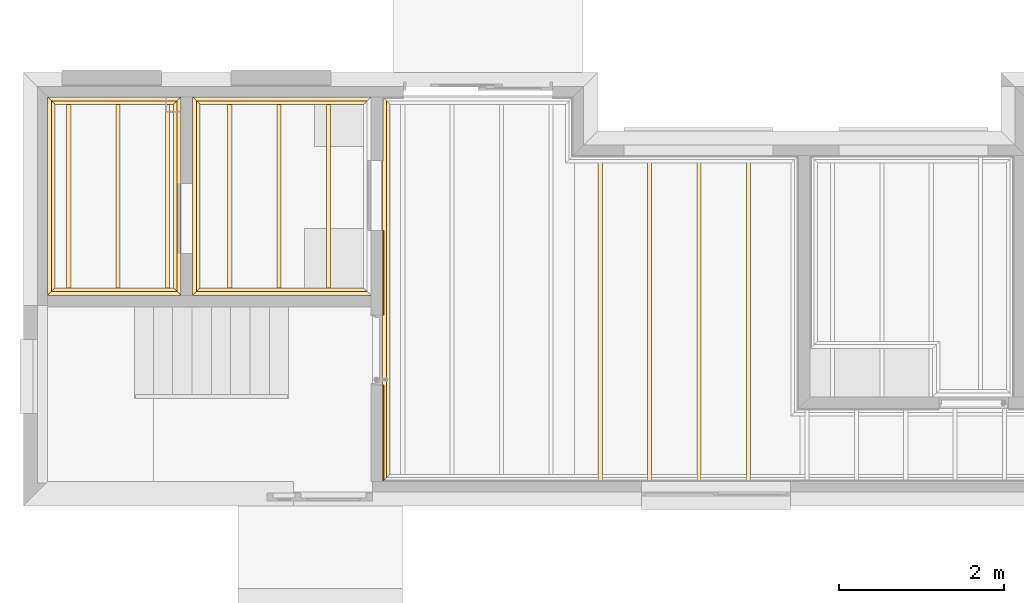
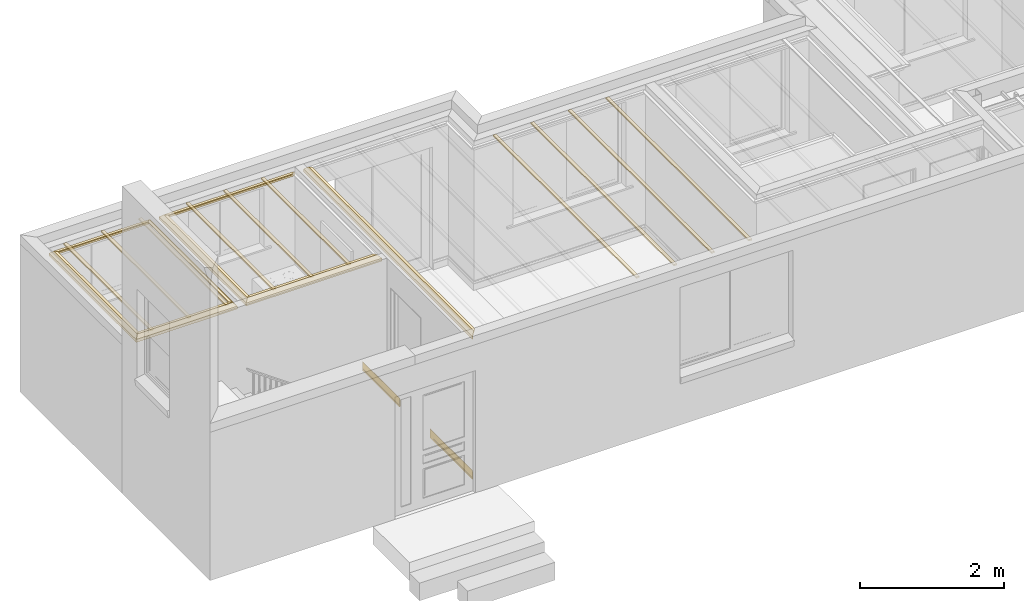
# One storey, part 10 of 15: 13 coverings.
"""IFC2X3 building model written with IfcOpenShell, lengths in millimetres."""

from ifc_helpers import new_model, entity, si_unit, converted_unit, money_unit, direction, frame, origin_with_axes, place, context, subcontext, project, spatial, faceted_brep, source, transform, mapped, material, type_object, element, save


model = new_model("IFC2X3")

# Units and contexts
model_context = context("Model", 3, precision=1e-05, world=origin_with_axes(), true_north=direction((0.0, 1.0)))
body_context = subcontext(model_context, "Body", "Model", "MODEL_VIEW")
ifc_project = project(units=[si_unit("LENGTHUNIT", "METRE", prefix="MILLI"), si_unit("AREAUNIT", "SQUARE_METRE"), si_unit("VOLUMEUNIT", "CUBIC_METRE"), converted_unit("PLANEANGLEUNIT", "DEGREE", entity("IfcPlaneAngleMeasure", 0.0174532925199), si_unit("PLANEANGLEUNIT", "RADIAN"), dimensions=[0, 0, 0, 0, 0, 0, 0]), si_unit("SOLIDANGLEUNIT", "STERADIAN"), money_unit("AUD"), si_unit("TIMEUNIT", "SECOND"), si_unit("MASSUNIT", "GRAM"), si_unit("THERMODYNAMICTEMPERATUREUNIT", "DEGREE_CELSIUS"), si_unit("LUMINOUSINTENSITYUNIT", "LUMEN")], contexts=[model_context])

# Site, building, storey
site_placement = place(None, origin_with_axes())
site = spatial("IfcSite", under=ifc_project, at=site_placement, Name="Lot 1. East Hills", CompositionType="ELEMENT")
building_placement = place(site_placement, origin_with_axes())
building = spatial("IfcBuilding", under=site, at=building_placement, Name="Proposed Units 7 & 8", CompositionType="ELEMENT")
storey_placement = place(building_placement, frame((0.0, 0.0, 3202.0), z_axis=(0.0, 0.0, 1.0), x_axis=(1.0, 0.0, 0.0)))
storey = spatial("IfcBuildingStorey", under=building, at=storey_placement, Name="Ground", CompositionType="ELEMENT", Elevation=3202.0)

# Coverings
ifc_material = material(Name="50 %")
covering_type_1 = type_object("IfcCoveringType", Name="CEILING BATTEN", PredefinedType="NOTDEFINED")
shared_shape_1 = source(origin_with_axes(), body_context, "Body", "Brep", [
    faceted_brep([(0.0, 0.0, 0.0), (0.0, 0.0, 25.0), (-2407.94844819, 0.0, 25.0), (-2407.94844819, 0.0, 0.0), (0.0, 50.0, 0.0), (0.0, 50.0, 25.0), (-2407.94844819, 50.0, 25.0), (-2407.94844819, 50.0, 0.0)], [[[0, 1, 2, 3]], [[4, 5, 1, 0]], [[1, 5, 6, 2]], [[3, 2, 6, 7]], [[0, 3, 7, 4]], [[7, 6, 5, 4]]]),
    faceted_brep([(0.0, 600.0, 0.0), (0.0, 600.0, 25.0), (-2407.94844819, 600.0, 25.0), (-2407.94844819, 600.0, 0.0), (0.0, 650.0, 0.0), (0.0, 650.0, 25.0), (-2407.94844819, 650.0, 25.0), (-2407.94844819, 650.0, 0.0)], [[[0, 1, 2, 3]], [[4, 5, 1, 0]], [[1, 5, 6, 2]], [[3, 2, 6, 7]], [[0, 3, 7, 4]], [[7, 6, 5, 4]]]),
    faceted_brep([(0.0, 1200.0, 0.0), (0.0, 1200.0, 25.0), (-2407.94844819, 1200.0, 25.0), (-2407.94844819, 1200.0, 0.0), (0.0, 1250.0, 0.0), (0.0, 1250.0, 25.0), (-2407.94844819, 1250.0, 25.0), (-2407.94844819, 1250.0, 0.0)], [[[0, 1, 2, 3]], [[4, 5, 1, 0]], [[1, 5, 6, 2]], [[3, 2, 6, 7]], [[0, 3, 7, 4]], [[7, 6, 5, 4]]]),
])
covering_1_placement = place(storey_placement, frame((1776.2166125, 4968.00000119, 2482.0), z_axis=(0.0, 0.0, 1.0), x_axis=(0.0, 1.0, 0.0)))
element("IfcCovering", 1, at=covering_1_placement, inside=storey, type_object=covering_type_1, material=ifc_material, Name="CEL-WALL-G06 - CEILING BATTEN - object -", PredefinedType="CEILING", context=body_context, shape_type="MappedRepresentation", body=[
    mapped(shared_shape_1, transform((0.0, 0.0, 0.0))),
])
shared_shape_2 = source(origin_with_axes(), body_context, "Body", "Brep", [
    faceted_brep([(0.0, 0.0, 0.0), (0.0, 0.0, 25.0), (-2409.94008868, 0.0, 25.0), (-2409.94008868, 0.0, 0.0), (0.0, 50.0, 0.0), (0.0, 50.0, 25.0), (-2409.94008868, 50.0, 25.0), (-2409.94008868, 50.0, 0.0)], [[[0, 1, 2, 3]], [[4, 5, 1, 0]], [[1, 5, 6, 2]], [[3, 2, 6, 7]], [[0, 3, 7, 4]], [[7, 6, 5, 4]]]),
    faceted_brep([(0.0, 600.0, 0.0), (0.0, 600.0, 25.0), (-2409.94008868, 600.0, 25.0), (-2409.94008868, 600.0, 0.0), (0.0, 650.0, 0.0), (0.0, 650.0, 25.0), (-2409.94008868, 650.0, 25.0), (-2409.94008868, 650.0, 0.0)], [[[0, 1, 2, 3]], [[4, 5, 1, 0]], [[1, 5, 6, 2]], [[3, 2, 6, 7]], [[0, 3, 7, 4]], [[7, 6, 5, 4]]]),
    faceted_brep([(0.0, 1200.0, 0.0), (0.0, 1200.0, 25.0), (-2409.94008868, 1200.0, 25.0), (-2409.94008868, 1200.0, 0.0), (0.0, 1250.0, 0.0), (0.0, 1250.0, 25.0), (-2409.94008868, 1250.0, 25.0), (-2409.94008868, 1250.0, 0.0)], [[[0, 1, 2, 3]], [[4, 5, 1, 0]], [[1, 5, 6, 2]], [[3, 2, 6, 7]], [[0, 3, 7, 4]], [[7, 6, 5, 4]]]),
])
covering_2_placement = place(storey_placement, frame((3732.51796531, 4968.00000119, 2482.0), z_axis=(0.0, 0.0, 1.0), x_axis=(0.0, 1.0, 0.0)))
element("IfcCovering", 2, at=covering_2_placement, inside=storey, type_object=covering_type_1, material=ifc_material, Name="CEL-WALL-G05 - CEILING BATTEN - object -", PredefinedType="CEILING", context=body_context, shape_type="MappedRepresentation", body=[
    mapped(shared_shape_2, transform((0.0, 0.0, 0.0))),
])
shared_shape_3 = source(origin_with_axes(), body_context, "Body", "Brep", [
    faceted_brep([(0.0, 0.0, 0.0), (0.0, 0.0, 25.0), (-3963.98807811, 0.0, 25.0), (-3963.98807811, 0.0, 0.0), (0.0, 50.0, 0.0), (0.0, 50.0, 25.0), (-3963.98807811, 50.0, 25.0), (-3963.98807811, 50.0, 0.0)], [[[0, 1, 2, 3]], [[4, 5, 1, 0]], [[1, 5, 6, 2]], [[3, 2, 6, 7]], [[0, 3, 7, 4]], [[7, 6, 5, 4]]]),
    faceted_brep([(0.0, 600.0, 0.0), (0.0, 600.0, 25.0), (-3963.98807811, 600.0, 25.0), (-3963.98807811, 600.0, 0.0), (0.0, 650.0, 0.0), (0.0, 650.0, 25.0), (-3963.98807811, 650.0, 25.0), (-3963.98807811, 650.0, 0.0)], [[[0, 1, 2, 3]], [[4, 5, 1, 0]], [[1, 5, 6, 2]], [[3, 2, 6, 7]], [[0, 3, 7, 4]], [[7, 6, 5, 4]]]),
    faceted_brep([(0.0, 1200.0, 0.0), (0.0, 1200.0, 25.0), (-3963.98807811, 1200.0, 25.0), (-3963.98807811, 1200.0, 0.0), (0.0, 1250.0, 0.0), (0.0, 1250.0, 25.0), (-3963.98807811, 1250.0, 25.0), (-3963.98807811, 1250.0, 0.0)], [[[0, 1, 2, 3]], [[4, 5, 1, 0]], [[1, 5, 6, 2]], [[3, 2, 6, 7]], [[0, 3, 7, 4]], [[7, 6, 5, 4]]]),
    faceted_brep([(0.0, 1800.0, 0.0), (0.0, 1800.0, 25.0), (-3963.98807811, 1800.0, 25.0), (-3963.98807811, 1800.0, 0.0), (0.0, 1850.0, 0.0), (0.0, 1850.0, 25.0), (-3963.98807811, 1850.0, 25.0), (-3963.98807811, 1850.0, 0.0)], [[[0, 1, 2, 3]], [[4, 5, 1, 0]], [[1, 5, 6, 2]], [[3, 2, 6, 7]], [[0, 3, 7, 4]], [[7, 6, 5, 4]]]),
])
covering_3_placement = place(storey_placement, frame((8834.99999955, 4258.00000119, 2482.0), z_axis=(0.0, 0.0, 1.0), x_axis=(0.0, 1.0, 0.0)))
element("IfcCovering", 3, at=covering_3_placement, inside=storey, type_object=covering_type_1, material=ifc_material, Name="CEL-WALL-G08 - CEILING BATTEN - object -", PredefinedType="CEILING", context=body_context, shape_type="MappedRepresentation", body=[
    mapped(shared_shape_3, transform((0.0, 0.0, 0.0))),
])
covering_type_2 = type_object("IfcCoveringType", Name="Molding Straight 12", PredefinedType="NOTDEFINED")
shared_shape_4 = source(origin_with_axes(), body_context, "Body", "Brep", [
    faceted_brep([(-1620.00000119, 0.0, -97.7142857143), (0.0, 0.0, -97.7142857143), (-20.5714285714, -20.5714285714, -97.7142857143), (-1599.42857262, -20.5714285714, -97.7142857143), (-1620.00000119, 0.0, -48.8571428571), (0.0, 0.0, -48.8571428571), (-48.8571428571, -48.8571428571, 0.0), (-90.0, -90.0, 0.0), (-90.0, -90.0, -12.8571428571), (-74.5714285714, -74.5714285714, -12.8571428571), (-74.5714285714, -74.5714285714, -25.7142857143), (-60.5952001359, -60.5952001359, -27.5542910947), (-47.5714285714, -47.5714285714, -32.9489139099), (-36.3876623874, -36.3876623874, -41.5305195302), (-27.8060567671, -27.8060567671, -52.7142857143), (-22.4114339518, -22.4114339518, -65.7380572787), (-20.5714285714, -20.5714285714, -79.7142857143), (-1599.42857262, -20.5714285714, -79.7142857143), (-1597.58856724, -22.4114339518, -65.7380572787), (-1592.19394443, -27.8060567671, -52.7142857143), (-1583.6123388, -36.3876623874, -41.5305195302), (-1572.42857262, -47.5714285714, -32.9489139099), (-1559.40480106, -60.5952001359, -27.5542910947), (-1545.42857262, -74.5714285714, -25.7142857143), (-1545.42857262, -74.5714285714, -12.8571428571), (-1530.00000119, -90.0, -12.8571428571), (-1530.00000119, -90.0, 0.0), (-1571.14285833, -48.8571428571, 0.0)], [[[0, 1, 2, 3]], [[4, 5, 1, 0]], [[1, 5, 6, 7, 8, 9, 10, 11, 12, 13, 14, 15, 16, 2]], [[3, 2, 16, 17]], [[0, 3, 17, 18, 19, 20, 21, 22, 23, 24, 25, 26, 27, 4]], [[27, 6, 5, 4]], [[26, 7, 6, 27]], [[25, 8, 7, 26]], [[24, 9, 8, 25]], [[23, 10, 9, 24]], [[22, 11, 10, 23]], [[21, 12, 11, 22]], [[20, 13, 12, 21]], [[19, 14, 13, 20]], [[18, 15, 14, 19]], [[17, 16, 15, 18]]]),
])
covering_4_placement = place(storey_placement, frame((1915.0, 4968.00000119, 2469.0), z_axis=(0.0, 0.0, 1.0), x_axis=(1.0, 0.0, 0.0)))
element("IfcCovering", 4, at=covering_4_placement, inside=storey, type_object=covering_type_2, material=ifc_material, Name="CEL-MOD-G34 - Molding Straight 12 - object -", PredefinedType="NOTDEFINED", context=body_context, shape_type="MappedRepresentation", body=[
    mapped(shared_shape_4, transform((0.0, 0.0, 0.0))),
])
shared_shape_5 = source(origin_with_axes(), body_context, "Body", "Brep", [
    faceted_brep([(-2409.96592086, 0.0, -97.7142857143), (0.0, 0.0, -97.7142857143), (-20.5714285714, -20.5714285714, -97.7142857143), (-2389.39449228, -20.5714285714, -97.7142857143), (-2409.96592086, 0.0, -48.8571428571), (0.0, 0.0, -48.8571428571), (-48.8571428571, -48.8571428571, 0.0), (-90.0, -90.0, 0.0), (-90.0, -90.0, -12.8571428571), (-74.5714285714, -74.5714285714, -12.8571428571), (-74.5714285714, -74.5714285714, -25.7142857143), (-60.5952001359, -60.5952001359, -27.5542910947), (-47.5714285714, -47.5714285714, -32.9489139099), (-36.3876623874, -36.3876623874, -41.5305195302), (-27.8060567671, -27.8060567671, -52.7142857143), (-22.4114339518, -22.4114339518, -65.7380572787), (-20.5714285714, -20.5714285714, -79.7142857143), (-2389.39449228, -20.5714285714, -79.7142857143), (-2387.5544869, -22.4114339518, -65.7380572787), (-2382.15986409, -27.8060567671, -52.7142857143), (-2373.57825847, -36.3876623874, -41.5305195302), (-2362.39449228, -47.5714285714, -32.9489139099), (-2349.37072072, -60.5952001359, -27.5542910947), (-2335.39449228, -74.5714285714, -25.7142857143), (-2335.39449228, -74.5714285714, -12.8571428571), (-2319.96592086, -90.0, -12.8571428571), (-2319.96592086, -90.0, 0.0), (-2361.108778, -48.8571428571, 0.0)], [[[0, 1, 2, 3]], [[4, 5, 1, 0]], [[1, 5, 6, 7, 8, 9, 10, 11, 12, 13, 14, 15, 16, 2]], [[3, 2, 16, 17]], [[0, 3, 17, 18, 19, 20, 21, 22, 23, 24, 25, 26, 27, 4]], [[27, 6, 5, 4]], [[26, 7, 6, 27]], [[25, 8, 7, 26]], [[24, 9, 8, 25]], [[23, 10, 9, 24]], [[22, 11, 10, 23]], [[21, 12, 11, 22]], [[20, 13, 12, 21]], [[19, 14, 13, 20]], [[18, 15, 14, 19]], [[17, 16, 15, 18]]]),
])
covering_5_placement = place(storey_placement, frame((1915.0, 2558.03408034, 2469.0), z_axis=(0.0, 0.0, 1.0), x_axis=(0.0, -1.0, 0.0)))
element("IfcCovering", 5, at=covering_5_placement, inside=storey, type_object=covering_type_2, material=ifc_material, Name="CEL-MOD-G33 - Molding Straight 12 - object -", PredefinedType="NOTDEFINED", context=body_context, shape_type="MappedRepresentation", body=[
    mapped(shared_shape_5, transform((0.0, 0.0, 0.0))),
])
shared_shape_6 = source(origin_with_axes(), body_context, "Body", "Brep", [
    faceted_brep([(-1620.00000119, 0.0, -97.7142857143), (0.0, 0.0, -97.7142857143), (-20.5714285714, -20.5714285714, -97.7142857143), (-1599.42857262, -20.5714285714, -97.7142857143), (-1620.00000119, 0.0, -48.8571428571), (0.0, 0.0, -48.8571428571), (-48.8571428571, -48.8571428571, 0.0), (-90.0, -90.0, 0.0), (-90.0, -90.0, -12.8571428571), (-74.5714285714, -74.5714285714, -12.8571428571), (-74.5714285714, -74.5714285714, -25.7142857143), (-60.5952001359, -60.5952001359, -27.5542910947), (-47.5714285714, -47.5714285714, -32.9489139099), (-36.3876623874, -36.3876623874, -41.5305195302), (-27.8060567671, -27.8060567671, -52.7142857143), (-22.4114339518, -22.4114339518, -65.7380572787), (-20.5714285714, -20.5714285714, -79.7142857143), (-1599.42857262, -20.5714285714, -79.7142857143), (-1597.58856724, -22.4114339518, -65.7380572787), (-1592.19394443, -27.8060567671, -52.7142857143), (-1583.6123388, -36.3876623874, -41.5305195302), (-1572.42857262, -47.5714285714, -32.9489139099), (-1559.40480106, -60.5952001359, -27.5542910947), (-1545.42857262, -74.5714285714, -25.7142857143), (-1545.42857262, -74.5714285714, -12.8571428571), (-1530.00000119, -90.0, -12.8571428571), (-1530.00000119, -90.0, 0.0), (-1571.14285833, -48.8571428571, 0.0)], [[[0, 1, 2, 3]], [[4, 5, 1, 0]], [[1, 5, 6, 7, 8, 9, 10, 11, 12, 13, 14, 15, 16, 2]], [[3, 2, 16, 17]], [[0, 3, 17, 18, 19, 20, 21, 22, 23, 24, 25, 26, 27, 4]], [[27, 6, 5, 4]], [[26, 7, 6, 27]], [[25, 8, 7, 26]], [[24, 9, 8, 25]], [[23, 10, 9, 24]], [[22, 11, 10, 23]], [[21, 12, 11, 22]], [[20, 13, 12, 21]], [[19, 14, 13, 20]], [[18, 15, 14, 19]], [[17, 16, 15, 18]]]),
])
covering_6_placement = place(storey_placement, frame((294.999998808, 2558.03408034, 2469.0), z_axis=(0.0, 0.0, 1.0), x_axis=(-1.0, 0.0, 0.0)))
element("IfcCovering", 6, at=covering_6_placement, inside=storey, type_object=covering_type_2, material=ifc_material, Name="CEL-MOD-G32 - Molding Straight 12 - object -", PredefinedType="NOTDEFINED", context=body_context, shape_type="MappedRepresentation", body=[
    mapped(shared_shape_6, transform((0.0, 0.0, 0.0))),
])
shared_shape_7 = source(origin_with_axes(), body_context, "Body", "Brep", [
    faceted_brep([(-2170.02032692, 0.0, -97.7142857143), (0.0, 0.0, -97.7142857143), (-20.5714285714, -20.5714285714, -97.7142857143), (-2149.44889835, -20.5714285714, -97.7142857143), (-2170.02032692, 0.0, -48.8571428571), (0.0, 0.0, -48.8571428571), (-48.8571428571, -48.8571428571, 0.0), (-90.0, -90.0, 0.0), (-90.0, -90.0, -12.8571428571), (-74.5714285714, -74.5714285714, -12.8571428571), (-74.5714285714, -74.5714285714, -25.7142857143), (-60.5952001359, -60.5952001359, -27.5542910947), (-47.5714285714, -47.5714285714, -32.9489139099), (-36.3876623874, -36.3876623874, -41.5305195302), (-27.8060567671, -27.8060567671, -52.7142857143), (-22.4114339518, -22.4114339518, -65.7380572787), (-20.5714285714, -20.5714285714, -79.7142857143), (-2149.44889835, -20.5714285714, -79.7142857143), (-2147.60889297, -22.4114339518, -65.7380572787), (-2142.21427015, -27.8060567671, -52.7142857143), (-2133.63266453, -36.3876623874, -41.5305195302), (-2122.44889835, -47.5714285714, -32.9489139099), (-2109.42512678, -60.5952001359, -27.5542910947), (-2095.44889835, -74.5714285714, -25.7142857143), (-2095.44889835, -74.5714285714, -12.8571428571), (-2080.02032692, -90.0, -12.8571428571), (-2080.02032692, -90.0, 0.0), (-2121.16318406, -48.8571428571, 0.0)], [[[0, 1, 2, 3]], [[4, 5, 1, 0]], [[1, 5, 6, 7, 8, 9, 10, 11, 12, 13, 14, 15, 16, 2]], [[3, 2, 16, 17]], [[0, 3, 17, 18, 19, 20, 21, 22, 23, 24, 25, 26, 27, 4]], [[27, 6, 5, 4]], [[26, 7, 6, 27]], [[25, 8, 7, 26]], [[24, 9, 8, 25]], [[23, 10, 9, 24]], [[22, 11, 10, 23]], [[21, 12, 11, 22]], [[20, 13, 12, 21]], [[19, 14, 13, 20]], [[18, 15, 14, 19]], [[17, 16, 15, 18]]]),
])
covering_7_placement = place(storey_placement, frame((2054.9999994, 2558.06361356, 2469.0), z_axis=(0.0, 0.0, 1.0), x_axis=(-1.0, 0.0, 0.0)))
element("IfcCovering", 7, at=covering_7_placement, inside=storey, type_object=covering_type_2, material=ifc_material, Name="CEL-MOD-G30 - Molding Straight 12 - object -", PredefinedType="NOTDEFINED", context=body_context, shape_type="MappedRepresentation", body=[
    mapped(shared_shape_7, transform((0.0, 0.0, 0.0))),
])
shared_shape_8 = source(origin_with_axes(), body_context, "Body", "Brep", [
    faceted_brep([(-2170.00221678, 0.0, -97.7142857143), (0.0, 0.0, -97.7142857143), (-20.5714285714, -20.5714285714, -97.7142857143), (-2149.43078821, -20.5714285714, -97.7142857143), (-2170.00221678, 0.0, -48.8571428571), (0.0, 0.0, -48.8571428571), (-48.8571428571, -48.8571428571, 0.0), (-90.0, -90.0, 0.0), (-90.0, -90.0, -12.8571428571), (-74.5714285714, -74.5714285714, -12.8571428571), (-74.5714285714, -74.5714285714, -25.7142857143), (-60.5952001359, -60.5952001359, -27.5542910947), (-47.5714285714, -47.5714285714, -32.9489139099), (-36.3876623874, -36.3876623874, -41.5305195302), (-27.8060567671, -27.8060567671, -52.7142857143), (-22.4114339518, -22.4114339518, -65.7380572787), (-20.5714285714, -20.5714285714, -79.7142857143), (-2149.43078821, -20.5714285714, -79.7142857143), (-2147.59078283, -22.4114339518, -65.7380572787), (-2142.19616002, -27.8060567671, -52.7142857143), (-2133.6145544, -36.3876623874, -41.5305195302), (-2122.43078821, -47.5714285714, -32.9489139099), (-2109.40701665, -60.5952001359, -27.5542910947), (-2095.43078821, -74.5714285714, -25.7142857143), (-2095.43078821, -74.5714285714, -12.8571428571), (-2080.00221678, -90.0, -12.8571428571), (-2080.00221678, -90.0, 0.0), (-2121.14507393, -48.8571428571, 0.0)], [[[0, 1, 2, 3]], [[4, 5, 1, 0]], [[1, 5, 6, 7, 8, 9, 10, 11, 12, 13, 14, 15, 16, 2]], [[3, 2, 16, 17]], [[0, 3, 17, 18, 19, 20, 21, 22, 23, 24, 25, 26, 27, 4]], [[27, 6, 5, 4]], [[26, 7, 6, 27]], [[25, 8, 7, 26]], [[24, 9, 8, 25]], [[23, 10, 9, 24]], [[22, 11, 10, 23]], [[21, 12, 11, 22]], [[20, 13, 12, 21]], [[19, 14, 13, 20]], [[18, 15, 14, 19]], [[17, 16, 15, 18]]]),
])
covering_8_placement = place(storey_placement, frame((4225.00221619, 4968.00000119, 2469.0), z_axis=(0.0, 0.0, 1.0), x_axis=(1.0, 0.0, 0.0)))
element("IfcCovering", 8, at=covering_8_placement, inside=storey, type_object=covering_type_2, material=ifc_material, Name="CEL-MOD-G29 - Molding Straight 12 - object -", PredefinedType="NOTDEFINED", context=body_context, shape_type="MappedRepresentation", body=[
    mapped(shared_shape_8, transform((0.0, 0.0, 0.0))),
])
shared_shape_9 = source(origin_with_axes(), body_context, "Body", "Brep", [
    faceted_brep([(-2409.95269485, 0.0, -97.7142857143), (0.0, 0.0, -97.7142857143), (-20.5714285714, -20.5714285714, -97.7142857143), (-2389.38126628, -20.5714285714, -97.7142857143), (-2409.95269485, 0.0, -48.8571428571), (0.0, 0.0, -48.8571428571), (-48.8571428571, -48.8571428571, 0.0), (-90.0, -90.0, 0.0), (-90.0, -90.0, -12.8571428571), (-74.5714285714, -74.5714285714, -12.8571428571), (-74.5714285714, -74.5714285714, -25.7142857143), (-60.5952001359, -60.5952001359, -27.5542910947), (-47.5714285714, -47.5714285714, -32.9489139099), (-36.3876623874, -36.3876623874, -41.5305195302), (-27.8060567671, -27.8060567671, -52.7142857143), (-22.4114339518, -22.4114339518, -65.7380572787), (-20.5714285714, -20.5714285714, -79.7142857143), (-2389.38126628, -20.5714285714, -79.7142857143), (-2387.5412609, -22.4114339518, -65.7380572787), (-2382.14663808, -27.8060567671, -52.7142857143), (-2373.56503246, -36.3876623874, -41.5305195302), (-2362.38126628, -47.5714285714, -32.9489139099), (-2349.35749471, -60.5952001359, -27.5542910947), (-2335.38126628, -74.5714285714, -25.7142857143), (-2335.38126628, -74.5714285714, -12.8571428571), (-2319.95269485, -90.0, -12.8571428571), (-2319.95269485, -90.0, 0.0), (-2361.09555199, -48.8571428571, 0.0)], [[[0, 1, 2, 3]], [[4, 5, 1, 0]], [[1, 5, 6, 7, 8, 9, 10, 11, 12, 13, 14, 15, 16, 2]], [[3, 2, 16, 17]], [[0, 3, 17, 18, 19, 20, 21, 22, 23, 24, 25, 26, 27, 4]], [[27, 6, 5, 4]], [[26, 7, 6, 27]], [[25, 8, 7, 26]], [[24, 9, 8, 25]], [[23, 10, 9, 24]], [[22, 11, 10, 23]], [[21, 12, 11, 22]], [[20, 13, 12, 21]], [[19, 14, 13, 20]], [[18, 15, 14, 19]], [[17, 16, 15, 18]]]),
])
covering_9_placement = place(storey_placement, frame((2054.9999994, 4968.00000119, 2469.0), z_axis=(0.0, 0.0, 1.0), x_axis=(0.0, 1.0, 0.0)))
element("IfcCovering", 9, at=covering_9_placement, inside=storey, type_object=covering_type_2, material=ifc_material, Name="CEL-MOD-G28 - Molding Straight 12 - object -", PredefinedType="NOTDEFINED", context=body_context, shape_type="MappedRepresentation", body=[
    mapped(shared_shape_9, transform((0.0, 0.0, 0.0))),
])
shared_shape_10 = source(origin_with_axes(), body_context, "Body", "Brep", [
    faceted_brep([(-2409.96592086, 0.0, -97.7142857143), (0.0, 0.0, -97.7142857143), (-20.5714285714, -20.5714285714, -97.7142857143), (-2389.39449228, -20.5714285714, -97.7142857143), (-2409.96592086, 0.0, -48.8571428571), (0.0, 0.0, -48.8571428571), (-48.8571428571, -48.8571428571, 0.0), (-90.0, -90.0, 0.0), (-90.0, -90.0, -12.8571428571), (-74.5714285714, -74.5714285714, -12.8571428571), (-74.5714285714, -74.5714285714, -25.7142857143), (-60.5952001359, -60.5952001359, -27.5542910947), (-47.5714285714, -47.5714285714, -32.9489139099), (-36.3876623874, -36.3876623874, -41.5305195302), (-27.8060567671, -27.8060567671, -52.7142857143), (-22.4114339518, -22.4114339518, -65.7380572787), (-20.5714285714, -20.5714285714, -79.7142857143), (-2389.39449228, -20.5714285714, -79.7142857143), (-2387.5544869, -22.4114339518, -65.7380572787), (-2382.15986409, -27.8060567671, -52.7142857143), (-2373.57825847, -36.3876623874, -41.5305195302), (-2362.39449228, -47.5714285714, -32.9489139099), (-2349.37072072, -60.5952001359, -27.5542910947), (-2335.39449228, -74.5714285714, -25.7142857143), (-2335.39449228, -74.5714285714, -12.8571428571), (-2319.96592086, -90.0, -12.8571428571), (-2319.96592086, -90.0, 0.0), (-2361.108778, -48.8571428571, 0.0)], [[[0, 1, 2, 3]], [[4, 5, 1, 0]], [[1, 5, 6, 7, 8, 9, 10, 11, 12, 13, 14, 15, 16, 2]], [[3, 2, 16, 17]], [[0, 3, 17, 18, 19, 20, 21, 22, 23, 24, 25, 26, 27, 4]], [[27, 6, 5, 4]], [[26, 7, 6, 27]], [[25, 8, 7, 26]], [[24, 9, 8, 25]], [[23, 10, 9, 24]], [[22, 11, 10, 23]], [[21, 12, 11, 22]], [[20, 13, 12, 21]], [[19, 14, 13, 20]], [[18, 15, 14, 19]], [[17, 16, 15, 18]]]),
])
covering_10_placement = place(storey_placement, frame((294.999998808, 4968.00000119, 2469.0), z_axis=(0.0, 0.0, 1.0), x_axis=(0.0, 1.0, 0.0)))
element("IfcCovering", 10, at=covering_10_placement, inside=storey, type_object=covering_type_2, material=ifc_material, Name="CEL-MOD-G15 - Molding Straight 12 - object -", PredefinedType="NOTDEFINED", context=body_context, shape_type="MappedRepresentation", body=[
    mapped(shared_shape_10, transform((0.0, 0.0, 0.0))),
])
shared_shape_11 = source(origin_with_axes(), body_context, "Body", "Brep", [
    faceted_brep([(-4675.00000238, 0.0, -97.7142857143), (0.0, 0.0, -97.7142857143), (-20.5714285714, -20.5714285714, -97.7142857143), (-4654.42857381, -20.5714285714, -97.7142857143), (-4675.00000238, 0.0, -48.8571428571), (0.0, 0.0, -48.8571428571), (-48.8571428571, -48.8571428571, 0.0), (-90.0, -90.0, 0.0), (-90.0, -90.0, -12.8571428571), (-74.5714285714, -74.5714285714, -12.8571428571), (-74.5714285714, -74.5714285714, -25.7142857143), (-60.5952001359, -60.5952001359, -27.5542910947), (-47.5714285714, -47.5714285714, -32.9489139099), (-36.3876623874, -36.3876623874, -41.5305195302), (-27.8060567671, -27.8060567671, -52.7142857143), (-22.4114339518, -22.4114339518, -65.7380572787), (-20.5714285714, -20.5714285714, -79.7142857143), (-4654.42857381, -20.5714285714, -79.7142857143), (-4652.58856843, -22.4114339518, -65.7380572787), (-4647.19394562, -27.8060567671, -52.7142857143), (-4638.61234, -36.3876623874, -41.5305195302), (-4627.42857381, -47.5714285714, -32.9489139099), (-4614.40480225, -60.5952001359, -27.5542910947), (-4600.42857381, -74.5714285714, -25.7142857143), (-4600.42857381, -74.5714285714, -12.8571428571), (-4585.00000238, -90.0, -12.8571428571), (-4585.00000238, -90.0, 0.0), (-4626.14285953, -48.8571428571, 0.0)], [[[0, 1, 2, 3]], [[4, 5, 1, 0]], [[1, 5, 6, 7, 8, 9, 10, 11, 12, 13, 14, 15, 16, 2]], [[3, 2, 16, 17]], [[0, 3, 17, 18, 19, 20, 21, 22, 23, 24, 25, 26, 27, 4]], [[27, 6, 5, 4]], [[26, 7, 6, 27]], [[25, 8, 7, 26]], [[24, 9, 8, 25]], [[23, 10, 9, 24]], [[22, 11, 10, 23]], [[21, 12, 11, 22]], [[20, 13, 12, 21]], [[19, 14, 13, 20]], [[18, 15, 14, 19]], [[17, 16, 15, 18]]]),
])
covering_11_placement = place(storey_placement, frame((4365.0022156, 4968.00000119, 2469.0), z_axis=(0.0, 0.0, 1.0), x_axis=(0.0, 1.0, 0.0)))
element("IfcCovering", 11, at=covering_11_placement, inside=storey, type_object=covering_type_2, material=ifc_material, Name="CEL-MOD-G09 - Molding Straight 12 - object -", PredefinedType="NOTDEFINED", context=body_context, shape_type="MappedRepresentation", body=[
    mapped(shared_shape_11, transform((0.0, 0.0, 0.0))),
])
shared_shape_12 = source(origin_with_axes(), body_context, "Body", "Brep", [
    faceted_brep([(1176.47186088, -19.0298507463, -150.0), (1176.47186088, -19.0298507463, -40.2985074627), (19.0295647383, -19.0298507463, -40.2985074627), (19.0295647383, -19.0298507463, -150.0), (1176.47200388, 0.0, -150.0), (1176.47200388, 0.0, -120.895522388), (1176.47198706, -2.23880597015, -118.656716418), (1176.47198706, -2.23880597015, -24.6268656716), (1176.47200388, 0.0, -22.3880597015), (1176.47200388, 0.0, 0.0), (1176.47195341, -6.71641791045, 0.0), (1176.47193659, -8.9552238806, -4.4776119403), (1176.47193481, -9.19197067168, -5.17383533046), (1176.4719345, -9.23315907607, -5.90805571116), (1176.47193568, -9.07576633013, -6.62638959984), (1176.47193827, -8.73134328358, -7.27611940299), (1176.47194248, -8.1712130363, -8.36014699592), (1176.47194416, -7.94776119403, -9.55970149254), (1176.4719419, -8.2485368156, -12.6066468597), (1176.47193356, -9.35788915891, -15.4603601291), (1176.47191976, -11.1940298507, -17.9104477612), (1176.4718865, -15.6211975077, -24.0923863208), (1176.47186929, -17.9104477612, -31.3432835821), (1176.47186918, -17.9257206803, -33.6342255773), (1176.47187387, -17.3014780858, -35.8385326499), (1176.47188299, -16.087254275, -37.7812907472), (1176.47189583, -14.3793991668, -39.3083399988), (1176.47191135, -12.3134328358, -40.2985074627), (12.3132477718, -12.3134328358, -40.2985074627), (14.3791830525, -14.3793991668, -39.3083399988), (16.0870124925, -16.087254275, -37.7812907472), (17.3012180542, -17.3014780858, -35.8385326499), (17.9254512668, -17.9257206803, -33.6342255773), (17.9101785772, -17.9104477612, -31.3432835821), (15.6209627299, -15.6211975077, -24.0923863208), (11.1938616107, -11.1940298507, -17.9104477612), (9.35774851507, -9.35788915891, -15.4603601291), (8.24841284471, -8.2485368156, -12.6066468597), (7.94764174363, -7.94776119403, -9.55970149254), (8.17109022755, -8.1712130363, -8.36014699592), (8.73121205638, -8.73134328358, -7.27611940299), (9.07562992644, -9.07576633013, -6.62638959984), (9.23302030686, -9.23315907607, -5.90805571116), (9.19183252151, -9.19197067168, -5.17383533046), (8.95508928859, -8.9552238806, -4.4776119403), (6.71631696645, -6.71641791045, 0.0), (0.0, 0.0, 0.0), (0.0, 0.0, -22.3880597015), (2.23877232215, -2.23880597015, -24.6268656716), (2.23877232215, -2.23880597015, -118.656716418), (0.0, 0.0, -120.895522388), (0.0, 0.0, -150.0)], [[[0, 1, 2, 3]], [[0, 4, 5, 6, 7, 8, 9, 10, 11, 12, 13, 14, 15, 16, 17, 18, 19, 20, 21, 22, 23, 24, 25, 26, 27, 1]], [[1, 27, 28, 2]], [[3, 2, 28, 29, 30, 31, 32, 33, 34, 35, 36, 37, 38, 39, 40, 41, 42, 43, 44, 45, 46, 47, 48, 49, 50, 51]], [[4, 0, 3, 51]], [[5, 4, 51, 50]], [[6, 5, 50, 49]], [[7, 6, 49, 48]], [[8, 7, 48, 47]], [[9, 8, 47, 46]], [[10, 9, 46, 45]], [[11, 10, 45, 44]], [[12, 11, 44, 43]], [[13, 12, 43, 42]], [[14, 13, 42, 41]], [[15, 14, 41, 40]], [[16, 15, 40, 39]], [[17, 16, 39, 38]], [[18, 17, 38, 37]], [[19, 18, 37, 36]], [[20, 19, 36, 35]], [[21, 20, 35, 34]], [[22, 21, 34, 33]], [[23, 22, 33, 32]], [[24, 23, 32, 31]], [[25, 24, 31, 30]], [[26, 25, 30, 29]], [[27, 26, 29, 28]]]),
])
covering_12_placement = place(storey_placement, frame((4365.03734718, 292.999998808, 150.0), z_axis=(0.0, 0.0, 1.0), x_axis=(-7.51477654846e-06, 0.999999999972, 0.0)))
element("IfcCovering", 12, at=covering_12_placement, inside=storey, type_object=covering_type_2, material=ifc_material, Name="Sk_01 - Molding Straight 12 - object -", PredefinedType="NOTDEFINED", context=body_context, shape_type="MappedRepresentation", body=[
    mapped(shared_shape_12, transform((0.0, 0.0, 0.0))),
])
shared_shape_13 = source(origin_with_axes(), body_context, "Body", "Brep", [
    faceted_brep([(1023.52889998, -19.0298507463, -150.0), (1023.52889998, -19.0298507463, -40.2985074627), (-0.770391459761, -19.0298507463, -40.2985074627), (-0.770391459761, -19.0298507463, -150.0), (1023.52904298, 0.0, -150.0), (1023.52904298, 0.0, -120.895522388), (1023.52902616, -2.23880597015, -118.656716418), (1023.52902616, -2.23880597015, -24.6268656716), (1023.52904298, 0.0, -22.3880597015), (1023.52904298, 0.0, 0.0), (1023.52899251, -6.71641791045, 0.0), (1023.52897569, -8.9552238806, -4.4776119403), (1023.52897391, -9.19197067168, -5.17383533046), (1023.5289736, -9.23315907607, -5.90805571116), (1023.52897478, -9.07576633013, -6.62638959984), (1023.52897737, -8.73134328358, -7.27611940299), (1023.52898158, -8.1712130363, -8.36014699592), (1023.52898326, -7.94776119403, -9.55970149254), (1023.528981, -8.2485368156, -12.6066468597), (1023.52897266, -9.35788915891, -15.4603601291), (1023.52895886, -11.1940298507, -17.9104477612), (1023.52892559, -15.6211975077, -24.0923863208), (1023.52890839, -17.9104477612, -31.3432835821), (1023.52890828, -17.9257206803, -33.6342255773), (1023.52891297, -17.3014780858, -35.8385326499), (1023.52892209, -16.087254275, -37.7812907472), (1023.52893493, -14.3793991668, -39.3083399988), (1023.52895045, -12.3134328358, -40.2985074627), (-0.49848859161, -12.3134328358, -40.2985074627), (-0.582125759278, -14.3793991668, -39.3083399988), (-0.651265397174, -16.087254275, -37.7812907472), (-0.700421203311, -17.3014780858, -35.8385326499), (-0.725692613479, -17.9257206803, -33.6342255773), (-0.725074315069, -17.9104477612, -31.3432835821), (-0.632397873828, -15.6211975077, -24.0923863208), (-0.453171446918, -11.1940298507, -17.9104477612), (-0.378838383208, -9.35788915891, -15.4603601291), (-0.333928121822, -8.2485368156, -12.6066468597), (-0.321751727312, -7.94776119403, -9.55970149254), (-0.330797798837, -8.1712130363, -8.36014699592), (-0.353473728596, -8.73134328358, -7.27611940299), (-0.367417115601, -9.07576633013, -6.62638959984), (-0.37378889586, -9.23315907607, -5.90805571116), (-0.372121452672, -9.19197067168, -5.17383533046), (-0.362537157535, -8.9552238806, -4.4776119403), (-0.271902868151, -6.71641791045, 0.0), (0.0, 0.0, 0.0), (0.0, 0.0, -22.3880597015), (-0.0906342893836, -2.23880597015, -24.6268656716), (-0.0906342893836, -2.23880597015, -118.656716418), (0.0, 0.0, -120.895522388), (0.0, 0.0, -150.0)], [[[0, 1, 2, 3]], [[0, 4, 5, 6, 7, 8, 9, 10, 11, 12, 13, 14, 15, 16, 17, 18, 19, 20, 21, 22, 23, 24, 25, 26, 27, 1]], [[1, 27, 28, 2]], [[3, 2, 28, 29, 30, 31, 32, 33, 34, 35, 36, 37, 38, 39, 40, 41, 42, 43, 44, 45, 46, 47, 48, 49, 50, 51]], [[4, 0, 3, 51]], [[5, 4, 51, 50]], [[6, 5, 50, 49]], [[7, 6, 49, 48]], [[8, 7, 48, 47]], [[9, 8, 47, 46]], [[10, 9, 46, 45]], [[11, 10, 45, 44]], [[12, 11, 44, 43]], [[13, 12, 43, 42]], [[14, 13, 42, 41]], [[15, 14, 41, 40]], [[16, 15, 40, 39]], [[17, 16, 39, 38]], [[18, 17, 38, 37]], [[19, 18, 37, 36]], [[20, 19, 36, 35]], [[21, 20, 35, 34]], [[22, 21, 34, 33]], [[23, 22, 33, 32]], [[24, 23, 32, 31]], [[25, 24, 31, 30]], [[26, 25, 30, 29]], [[27, 26, 29, 28]]]),
])
covering_13_placement = place(storey_placement, frame((4365.02211869, 2319.47200264, 150.0), z_axis=(0.0, 0.0, 1.0), x_axis=(-7.51477654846e-06, 0.999999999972, 0.0)))
element("IfcCovering", 13, at=covering_13_placement, inside=storey, type_object=covering_type_2, material=ifc_material, Name="Sk_01 - Molding Straight 12 - object -", PredefinedType="NOTDEFINED", context=body_context, shape_type="MappedRepresentation", body=[
    mapped(shared_shape_13, transform((0.0, 0.0, 0.0))),
])

save(model, "model.ifc")
